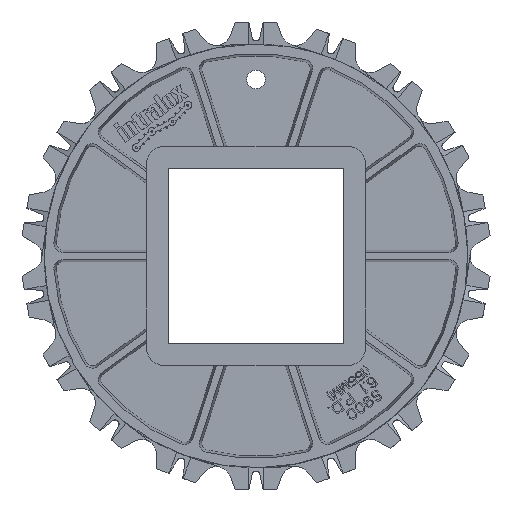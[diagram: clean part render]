
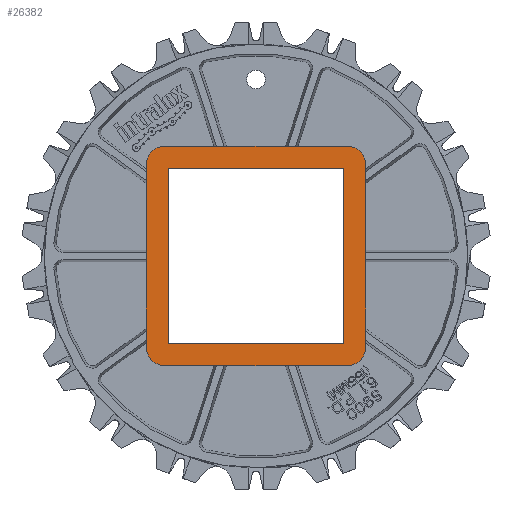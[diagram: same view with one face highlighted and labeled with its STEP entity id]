
A CAD part, top view. The second image highlights one B-rep face of the part: STEP entity #26382.
In plain terms, the highlighted planar face has unit normal (0, 0, 1).
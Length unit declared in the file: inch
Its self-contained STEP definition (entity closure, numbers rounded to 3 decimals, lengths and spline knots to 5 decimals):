
#6079=CARTESIAN_POINT('',(-1.229,1.229,0.74));
#6080=DIRECTION('',(0.,0.,1.));
#6081=DIRECTION('',(0.,1.,0.));
#6082=AXIS2_PLACEMENT_3D('',#6079,#6080,#6081);
#6084=DIRECTION('',(-1.,0.,0.));
#6085=VECTOR('',#6084,2.458);
#6086=CARTESIAN_POINT('',(1.229,1.479,0.74));
#6087=LINE('',#6086,#6085);
#6088=CARTESIAN_POINT('',(1.229,1.229,0.74));
#6089=DIRECTION('',(0.,0.,1.));
#6090=DIRECTION('',(1.,0.,0.));
#6091=AXIS2_PLACEMENT_3D('',#6088,#6089,#6090);
#6093=DIRECTION('',(0.,1.,0.));
#6094=VECTOR('',#6093,2.458);
#6095=CARTESIAN_POINT('',(1.479,-1.229,0.74));
#6096=LINE('',#6095,#6094);
#6097=CARTESIAN_POINT('',(1.229,-1.229,0.74));
#6098=DIRECTION('',(0.,0.,1.));
#6099=DIRECTION('',(0.,-1.,0.));
#6100=AXIS2_PLACEMENT_3D('',#6097,#6098,#6099);
#6102=DIRECTION('',(1.,0.,0.));
#6103=VECTOR('',#6102,2.458);
#6104=CARTESIAN_POINT('',(-1.229,-1.479,0.74));
#6105=LINE('',#6104,#6103);
#6106=CARTESIAN_POINT('',(-1.229,-1.229,0.74));
#6107=DIRECTION('',(0.,0.,1.));
#6108=DIRECTION('',(-1.,0.,0.));
#6109=AXIS2_PLACEMENT_3D('',#6106,#6107,#6108);
#6111=DIRECTION('',(0.,-1.,0.));
#6112=VECTOR('',#6111,2.458);
#6113=CARTESIAN_POINT('',(-1.479,1.229,0.74));
#6114=LINE('',#6113,#6112);
#6115=DIRECTION('',(0.,-1.,0.));
#6116=VECTOR('',#6115,2.362);
#6117=CARTESIAN_POINT('',(-1.181,1.181,0.74));
#6118=LINE('',#6117,#6116);
#6119=DIRECTION('',(1.,0.,0.));
#6120=VECTOR('',#6119,2.362);
#6121=CARTESIAN_POINT('',(-1.181,-1.181,0.74));
#6122=LINE('',#6121,#6120);
#6123=DIRECTION('',(0.,1.,0.));
#6124=VECTOR('',#6123,2.362);
#6125=CARTESIAN_POINT('',(1.181,-1.181,0.74));
#6126=LINE('',#6125,#6124);
#6127=DIRECTION('',(-1.,0.,0.));
#6128=VECTOR('',#6127,2.362);
#6129=CARTESIAN_POINT('',(1.181,1.181,0.74));
#6130=LINE('',#6129,#6128);
#14670=CARTESIAN_POINT('',(-1.479,1.229,0.74));
#14671=CARTESIAN_POINT('',(-1.479,-1.229,0.74));
#14672=VERTEX_POINT('',#14670);
#14673=VERTEX_POINT('',#14671);
#14674=CARTESIAN_POINT('',(-1.229,-1.479,0.74));
#14675=CARTESIAN_POINT('',(1.229,-1.479,0.74));
#14676=VERTEX_POINT('',#14674);
#14677=VERTEX_POINT('',#14675);
#14678=CARTESIAN_POINT('',(1.479,-1.229,0.74));
#14679=CARTESIAN_POINT('',(1.479,1.229,0.74));
#14680=VERTEX_POINT('',#14678);
#14681=VERTEX_POINT('',#14679);
#14682=CARTESIAN_POINT('',(1.229,1.479,0.74));
#14683=CARTESIAN_POINT('',(-1.229,1.479,0.74));
#14684=VERTEX_POINT('',#14682);
#14685=VERTEX_POINT('',#14683);
#18934=CARTESIAN_POINT('',(-1.181,1.181,0.74));
#18935=VERTEX_POINT('',#18934);
#18936=CARTESIAN_POINT('',(-1.181,-1.181,0.74));
#18937=VERTEX_POINT('',#18936);
#18938=CARTESIAN_POINT('',(1.181,-1.181,0.74));
#18939=VERTEX_POINT('',#18938);
#18940=CARTESIAN_POINT('',(1.181,1.181,0.74));
#18941=VERTEX_POINT('',#18940);
#26356=CARTESIAN_POINT('',(0.,0.,0.74));
#26357=DIRECTION('',(0.,0.,1.));
#26358=DIRECTION('',(1.,0.,0.));
#26359=AXIS2_PLACEMENT_3D('',#26356,#26357,#26358);
#26360=PLANE('',#26359);
#26361=ORIENTED_EDGE('',*,*,#24833,.F.);
#26362=ORIENTED_EDGE('',*,*,#25393,.F.);
#26363=ORIENTED_EDGE('',*,*,#26253,.F.);
#26364=ORIENTED_EDGE('',*,*,#26019,.F.);
#26366=ORIENTED_EDGE('',*,*,#26365,.F.);
#26367=ORIENTED_EDGE('',*,*,#25784,.F.);
#26368=ORIENTED_EDGE('',*,*,#25703,.F.);
#26369=ORIENTED_EDGE('',*,*,#24634,.F.);
#26370=EDGE_LOOP('',(#26361,#26362,#26363,#26364,#26366,#26367,#26368,#26369));
#26371=FACE_OUTER_BOUND('',#26370,.F.);
#26373=ORIENTED_EDGE('',*,*,#26372,.T.);
#26375=ORIENTED_EDGE('',*,*,#26374,.T.);
#26377=ORIENTED_EDGE('',*,*,#26376,.T.);
#26379=ORIENTED_EDGE('',*,*,#26378,.T.);
#26380=EDGE_LOOP('',(#26373,#26375,#26377,#26379));
#26381=FACE_BOUND('',#26380,.F.);
#26382=ADVANCED_FACE('',(#26371,#26381),#26360,.T.);
#6083=CIRCLE('',#6082,0.25);
#6092=CIRCLE('',#6091,0.25);
#6101=CIRCLE('',#6100,0.25);
#6110=CIRCLE('',#6109,0.25);
#24634=EDGE_CURVE('',#14672,#14673,#6114,.T.);
#24833=EDGE_CURVE('',#14685,#14672,#6083,.T.);
#25393=EDGE_CURVE('',#14684,#14685,#6087,.T.);
#25703=EDGE_CURVE('',#14673,#14676,#6110,.T.);
#25784=EDGE_CURVE('',#14676,#14677,#6105,.T.);
#26019=EDGE_CURVE('',#14680,#14681,#6096,.T.);
#26253=EDGE_CURVE('',#14681,#14684,#6092,.T.);
#26365=EDGE_CURVE('',#14677,#14680,#6101,.T.);
#26372=EDGE_CURVE('',#18935,#18937,#6118,.T.);
#26374=EDGE_CURVE('',#18937,#18939,#6122,.T.);
#26376=EDGE_CURVE('',#18939,#18941,#6126,.T.);
#26378=EDGE_CURVE('',#18941,#18935,#6130,.T.);
